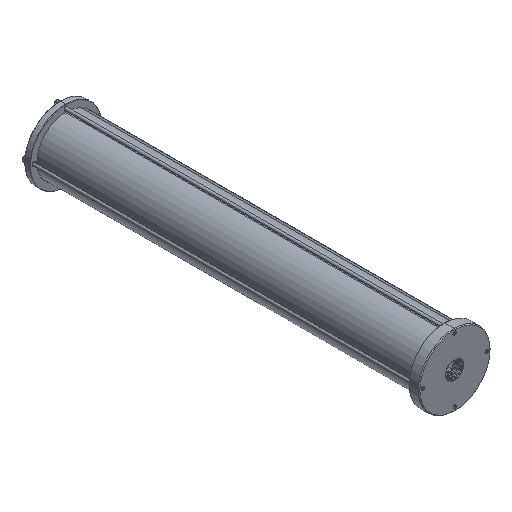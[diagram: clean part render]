
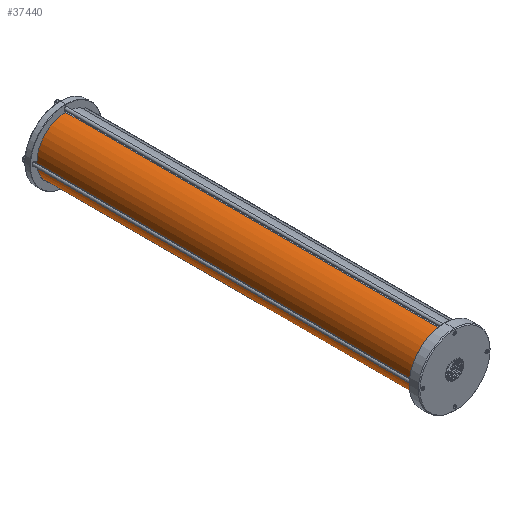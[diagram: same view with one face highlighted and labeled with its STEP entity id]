
A CAD part, isometric view. The second image highlights one B-rep face of the part: STEP entity #37440.
In plain terms, the highlighted cylindrical face has radius 55 mm (diameter 110 mm), a partial arc.
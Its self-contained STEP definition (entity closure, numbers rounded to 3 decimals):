
#872 = ORIENTED_EDGE ( 'NONE', *, *, #36881, .F. ) ;
#7132 = ORIENTED_EDGE ( 'NONE', *, *, #90849, .T. ) ;
#9870 = AXIS2_PLACEMENT_3D ( 'NONE', #57064, #94825, #28857 ) ;
#11723 = DIRECTION ( 'NONE',  ( 0., 1., 0. ) ) ;
#11737 = EDGE_LOOP ( 'NONE', ( #87264, #872, #68718, #7132 ) ) ;
#15798 = AXIS2_PLACEMENT_3D ( 'NONE', #112515, #11723, #39986 ) ;
#17580 = CARTESIAN_POINT ( 'NONE',  ( 40.045, 763.458, 46.617 ) ) ;
#20020 = DIRECTION ( 'NONE',  ( 0., 0., -1. ) ) ;
#21566 = DIRECTION ( 'NONE',  ( 0., -1., 0. ) ) ;
#22152 = CARTESIAN_POINT ( 'NONE',  ( 40.045, 763.458, 46.617 ) ) ;
#23598 = AXIS2_PLACEMENT_3D ( 'NONE', #111154, #29003, #20020 ) ;
#27033 = LINE ( 'NONE', #63028, #76724 ) ;
#28857 = DIRECTION ( 'NONE',  ( 0., 0., 1. ) ) ;
#29003 = DIRECTION ( 'NONE',  ( 0., -1., 0. ) ) ;
#31130 = CIRCLE ( 'NONE', #15798, 55. ) ;
#36881 = EDGE_CURVE ( 'NONE', #114061, #50366, #52114, .T. ) ;
#37440 = ADVANCED_FACE ( 'NONE', ( #39805 ), #76981, .T. ) ;
#39805 = FACE_OUTER_BOUND ( 'NONE', #11737, .T. ) ;
#39986 = DIRECTION ( 'NONE',  ( 0., 0., 1. ) ) ;
#41073 = VERTEX_POINT ( 'NONE', #100490 ) ;
#45624 = VECTOR ( 'NONE', #21566, 1000. ) ;
#50366 = VERTEX_POINT ( 'NONE', #86649 ) ;
#52114 = CIRCLE ( 'NONE', #9870, 55. ) ;
#57064 = CARTESIAN_POINT ( 'NONE',  ( 40.045, 763.458, 101.617 ) ) ;
#63028 = CARTESIAN_POINT ( 'NONE',  ( 40.045, 763.458, 156.617 ) ) ;
#66545 = LINE ( 'NONE', #22152, #45624 ) ;
#68718 = ORIENTED_EDGE ( 'NONE', *, *, #79624, .T. ) ;
#73177 = DIRECTION ( 'NONE',  ( 0., -1., 0. ) ) ;
#76724 = VECTOR ( 'NONE', #73177, 1000. ) ;
#76981 = CYLINDRICAL_SURFACE ( 'NONE', #23598, 55. ) ;
#79624 = EDGE_CURVE ( 'NONE', #114061, #105159, #66545, .T. ) ;
#82115 = EDGE_CURVE ( 'NONE', #50366, #41073, #27033, .T. ) ;
#86649 = CARTESIAN_POINT ( 'NONE',  ( 40.045, 763.458, 156.617 ) ) ;
#87264 = ORIENTED_EDGE ( 'NONE', *, *, #82115, .F. ) ;
#90849 = EDGE_CURVE ( 'NONE', #105159, #41073, #31130, .T. ) ;
#91642 = CARTESIAN_POINT ( 'NONE',  ( 40.045, 26.458, 46.617 ) ) ;
#94825 = DIRECTION ( 'NONE',  ( 0., 1., 0. ) ) ;
#100490 = CARTESIAN_POINT ( 'NONE',  ( 40.045, 26.458, 156.617 ) ) ;
#105159 = VERTEX_POINT ( 'NONE', #91642 ) ;
#111154 = CARTESIAN_POINT ( 'NONE',  ( 40.045, 763.458, 101.617 ) ) ;
#112515 = CARTESIAN_POINT ( 'NONE',  ( 40.045, 26.458, 101.617 ) ) ;
#114061 = VERTEX_POINT ( 'NONE', #17580 ) ;
